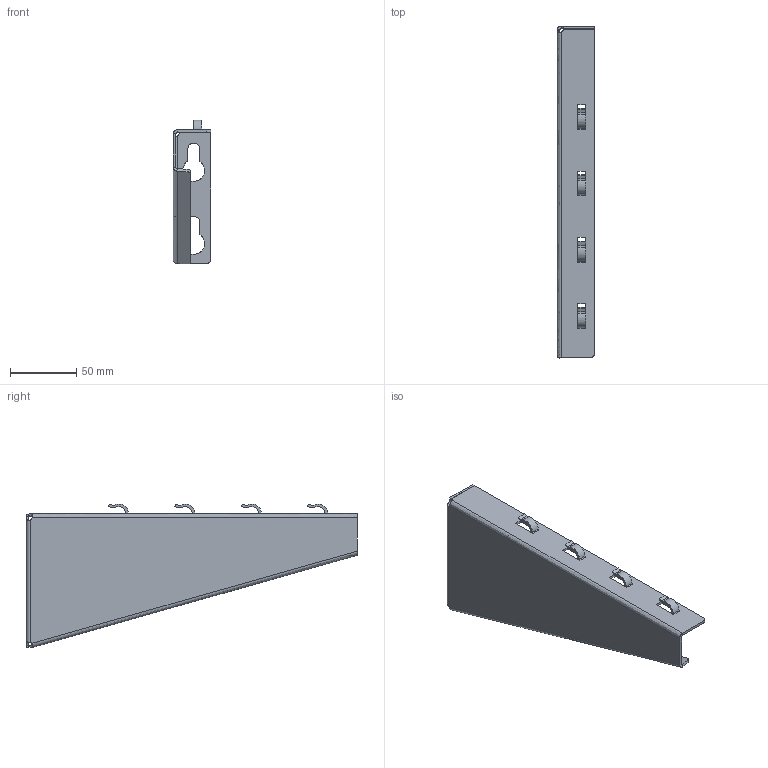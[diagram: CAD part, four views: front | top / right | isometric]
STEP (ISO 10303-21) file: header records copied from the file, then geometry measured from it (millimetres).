
FILE_DESCRIPTION(/* description */ (''),/* implementation_level */ '2;1');
FILE_NAME(/* name */ 'NZM250~1',/* time_stamp */ '2025-03-13T20:49:23+01:00',/* author */ (''),/* organization */ (''),/* preprocessor_version */ 'ST-DEVELOPER v16.5',/* originating_system */ '',/* authorisation */ '');
FILE_SCHEMA (('CONFIG_CONTROL_DESIGN'));
Length unit declared in the file: millimetre
Products named in the file (1): Document
Bounding box: 28.52 x 249.95 x 108.42 mm (x, y, z)
Volume: 55738.3 mm3; surface area: 57491.5 mm2
Topology: 1 solids, 5 shells, 126 faces, 336 edges, 216 vertices
Faces by surface type: bspline 56, plane 44, cylinder 26
Entity records: 4125 total; most frequent: CARTESIAN_POINT 2062, ORIENTED_EDGE 656, EDGE_CURVE 336, VERTEX_POINT 216, EDGE_LOOP 138, B_SPLINE_CURVE_WITH_KNOTS 129, ADVANCED_FACE 126, FACE_OUTER_BOUND 126
